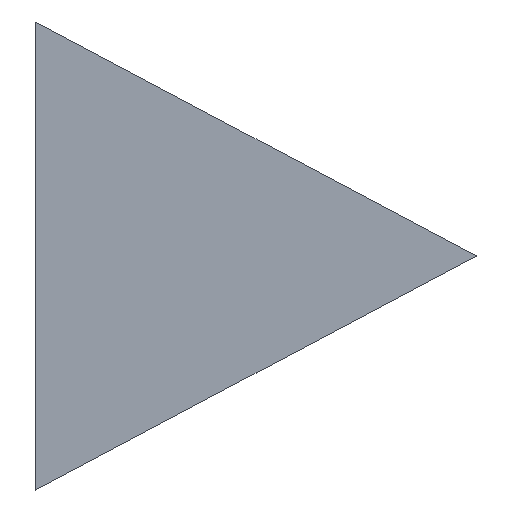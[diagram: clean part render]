
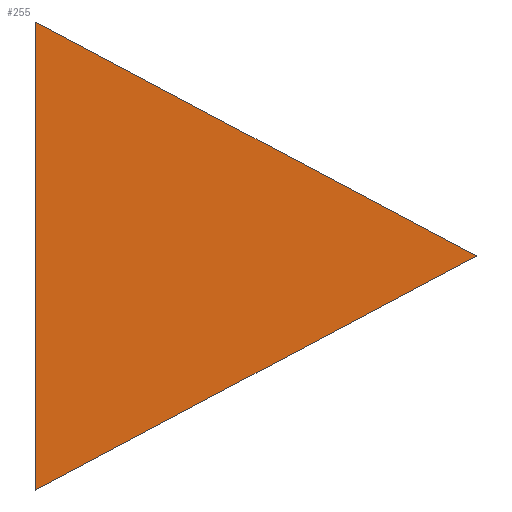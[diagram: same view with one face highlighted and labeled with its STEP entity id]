
A CAD part, top view. The second image highlights one B-rep face of the part: STEP entity #255.
In plain terms, the highlighted planar face has unit normal (0, 0, 1).
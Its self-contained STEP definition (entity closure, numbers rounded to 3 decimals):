
#32 = PLANE('',#33);
#33 = AXIS2_PLACEMENT_3D('',#34,#35,#36);
#34 = CARTESIAN_POINT('',(-3.18,-40.06,14.05));
#35 = DIRECTION('',(0.469,-0.883,0.));
#36 = DIRECTION('',(0.883,0.469,0.));
#57 = VERTEX_POINT('',#58);
#58 = CARTESIAN_POINT('',(4.46,-36.,14.085));
#72 = PLANE('',#73);
#73 = AXIS2_PLACEMENT_3D('',#74,#75,#76);
#74 = CARTESIAN_POINT('',(4.46,-36.,14.05));
#75 = DIRECTION('',(0.469,0.883,0.));
#76 = DIRECTION('',(-0.883,0.469,0.));
#84 = EDGE_CURVE('',#85,#57,#87,.T.);
#85 = VERTEX_POINT('',#86);
#86 = CARTESIAN_POINT('',(-3.18,-40.06,14.085));
#87 = SURFACE_CURVE('',#88,(#92,#99),.PCURVE_S1.);
#88 = LINE('',#89,#90);
#89 = CARTESIAN_POINT('',(4.46,-36.,14.085));
#90 = VECTOR('',#91,1.);
#91 = DIRECTION('',(0.883,0.469,0.));
#92 = PCURVE('',#32,#93);
#93 = DEFINITIONAL_REPRESENTATION('',(#94),#98);
#94 = LINE('',#95,#96);
#95 = CARTESIAN_POINT('',(8.652,0.035));
#96 = VECTOR('',#97,1.);
#97 = DIRECTION('',(1.,0.));
#98 = ( GEOMETRIC_REPRESENTATION_CONTEXT(2) 
PARAMETRIC_REPRESENTATION_CONTEXT() REPRESENTATION_CONTEXT('2D SPACE',''
  ) );
#99 = PCURVE('',#100,#105);
#100 = PLANE('',#101);
#101 = AXIS2_PLACEMENT_3D('',#102,#103,#104);
#102 = CARTESIAN_POINT('',(0.64,-36.,14.085));
#103 = DIRECTION('',(0.,0.,1.));
#104 = DIRECTION('',(1.,0.,-0.));
#105 = DEFINITIONAL_REPRESENTATION('',(#106),#110);
#106 = LINE('',#107,#108);
#107 = CARTESIAN_POINT('',(3.82,0.));
#108 = VECTOR('',#109,1.);
#109 = DIRECTION('',(0.883,0.469));
#110 = ( GEOMETRIC_REPRESENTATION_CONTEXT(2) 
PARAMETRIC_REPRESENTATION_CONTEXT() REPRESENTATION_CONTEXT('2D SPACE',''
  ) );
#126 = PLANE('',#127);
#127 = AXIS2_PLACEMENT_3D('',#128,#129,#130);
#128 = CARTESIAN_POINT('',(-3.18,-31.94,14.05));
#129 = DIRECTION('',(-1.,0.,0.));
#130 = DIRECTION('',(0.,-1.,0.));
#165 = EDGE_CURVE('',#166,#85,#168,.T.);
#166 = VERTEX_POINT('',#167);
#167 = CARTESIAN_POINT('',(-3.18,-31.94,14.085));
#168 = SURFACE_CURVE('',#169,(#173,#180),.PCURVE_S1.);
#169 = LINE('',#170,#171);
#170 = CARTESIAN_POINT('',(-3.18,-40.06,14.085));
#171 = VECTOR('',#172,1.);
#172 = DIRECTION('',(0.,-1.,0.));
#173 = PCURVE('',#126,#174);
#174 = DEFINITIONAL_REPRESENTATION('',(#175),#179);
#175 = LINE('',#176,#177);
#176 = CARTESIAN_POINT('',(8.12,0.035));
#177 = VECTOR('',#178,1.);
#178 = DIRECTION('',(1.,0.));
#179 = ( GEOMETRIC_REPRESENTATION_CONTEXT(2) 
PARAMETRIC_REPRESENTATION_CONTEXT() REPRESENTATION_CONTEXT('2D SPACE',''
  ) );
#180 = PCURVE('',#100,#181);
#181 = DEFINITIONAL_REPRESENTATION('',(#182),#186);
#182 = LINE('',#183,#184);
#183 = CARTESIAN_POINT('',(-3.82,-4.06));
#184 = VECTOR('',#185,1.);
#185 = DIRECTION('',(0.,-1.));
#186 = ( GEOMETRIC_REPRESENTATION_CONTEXT(2) 
PARAMETRIC_REPRESENTATION_CONTEXT() REPRESENTATION_CONTEXT('2D SPACE',''
  ) );
#234 = EDGE_CURVE('',#57,#166,#235,.T.);
#235 = SURFACE_CURVE('',#236,(#240,#247),.PCURVE_S1.);
#236 = LINE('',#237,#238);
#237 = CARTESIAN_POINT('',(-3.18,-31.94,14.085));
#238 = VECTOR('',#239,1.);
#239 = DIRECTION('',(-0.883,0.469,0.));
#240 = PCURVE('',#72,#241);
#241 = DEFINITIONAL_REPRESENTATION('',(#242),#246);
#242 = LINE('',#243,#244);
#243 = CARTESIAN_POINT('',(8.652,0.035));
#244 = VECTOR('',#245,1.);
#245 = DIRECTION('',(1.,0.));
#246 = ( GEOMETRIC_REPRESENTATION_CONTEXT(2) 
PARAMETRIC_REPRESENTATION_CONTEXT() REPRESENTATION_CONTEXT('2D SPACE',''
  ) );
#247 = PCURVE('',#100,#248);
#248 = DEFINITIONAL_REPRESENTATION('',(#249),#253);
#249 = LINE('',#250,#251);
#250 = CARTESIAN_POINT('',(-3.82,4.06));
#251 = VECTOR('',#252,1.);
#252 = DIRECTION('',(-0.883,0.469));
#253 = ( GEOMETRIC_REPRESENTATION_CONTEXT(2) 
PARAMETRIC_REPRESENTATION_CONTEXT() REPRESENTATION_CONTEXT('2D SPACE',''
  ) );
#255 = ADVANCED_FACE('',(#256),#100,.T.);
#256 = FACE_BOUND('',#257,.T.);
#257 = EDGE_LOOP('',(#258,#259,#260));
#258 = ORIENTED_EDGE('',*,*,#234,.T.);
#259 = ORIENTED_EDGE('',*,*,#165,.T.);
#260 = ORIENTED_EDGE('',*,*,#84,.T.);
